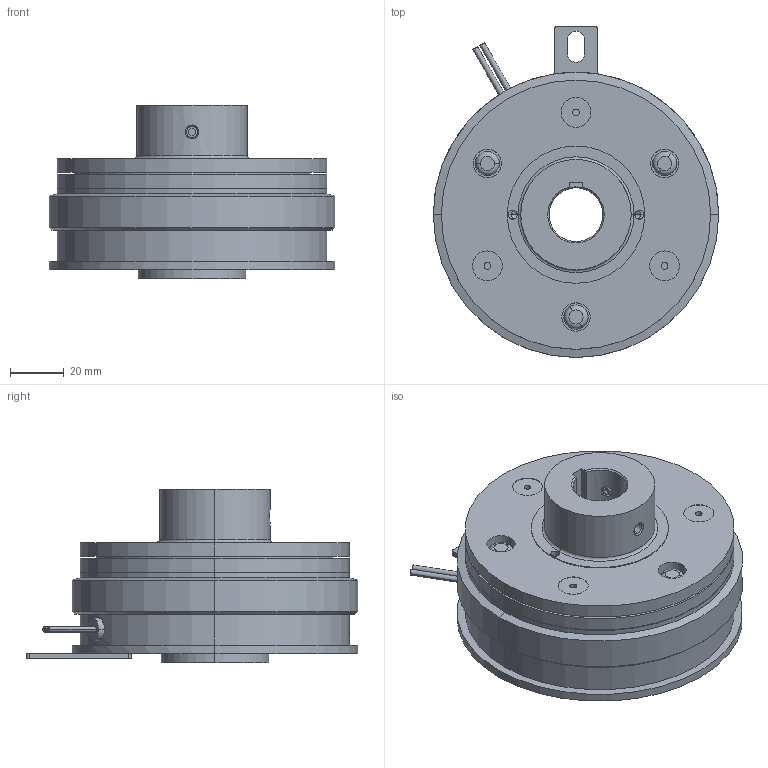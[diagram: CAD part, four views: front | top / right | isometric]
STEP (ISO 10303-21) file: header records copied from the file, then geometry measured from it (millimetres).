
FILE_DESCRIPTION (( 'STEP AP214' ), '1' );
FILE_NAME ('CS-10-31G R20JIS A20JIS.STEP', '2018-02-21T08:01:46', ( 'MIKI' ), ( '' ), 'SwSTEP 2.0', 'SolidWorks 2012', '' );
FILE_SCHEMA (( 'AUTOMOTIVE_DESIGN' ));
Length unit declared in the file: millimetre
Products named in the file (1): CS-10-31G R20JIS A20JIS
Bounding box: 106 x 123 x 64.6 mm (x, y, z)
Volume: 331636.2 mm3; surface area: 58913.9 mm2
Topology: 1 solids, 5 shells, 242 faces, 531 edges, 332 vertices
Faces by surface type: cylinder 114, plane 77, cone 37, torus 14
Entity records: 9608 total; most frequent: CARTESIAN_POINT 1402, DIRECTION 1266, ORIENTED_EDGE 1038, AXIS2_PLACEMENT_3D 520, EDGE_CURVE 519, VERTEX_POINT 332, EDGE_LOOP 297, CIRCLE 277
